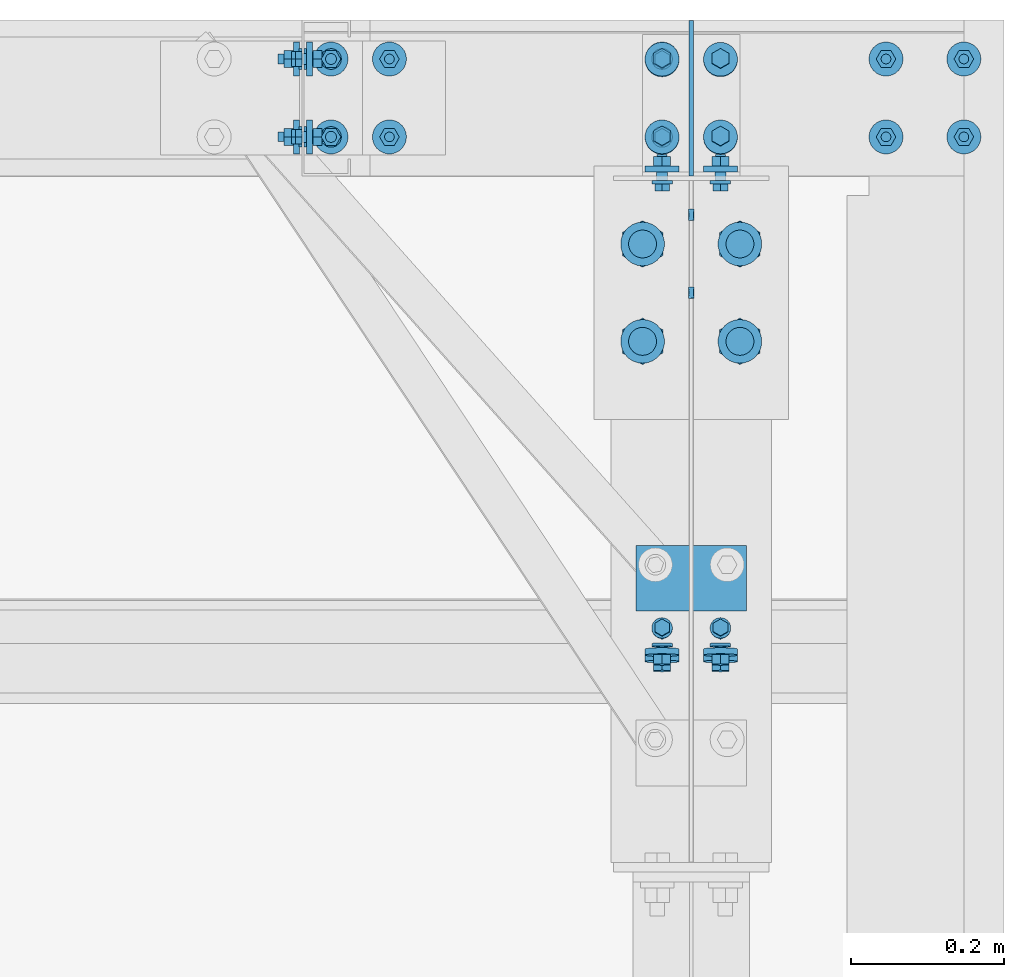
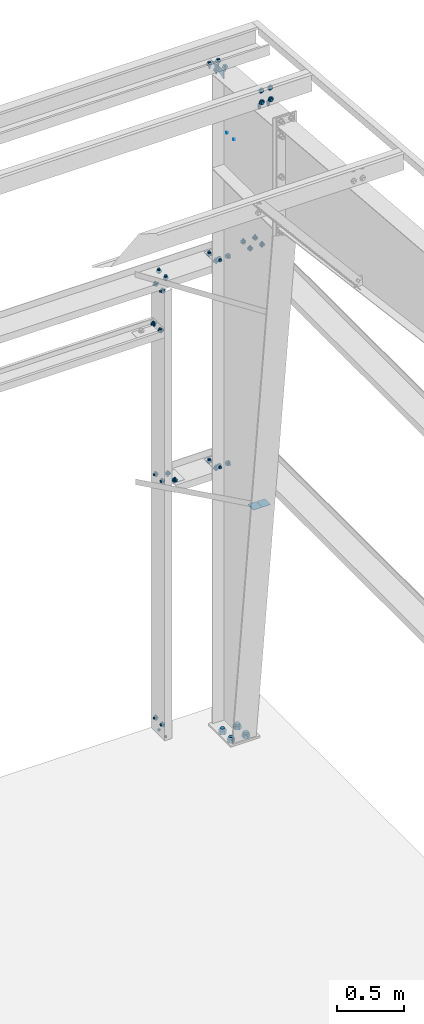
# One storey, part 118 of 185: 19 mechanical fasteners, 3 discrete accessories, 10 elements without a shape of their own.
"""IFC2X3 building model written with IfcOpenShell, lengths in millimetres."""

from ifc_helpers import new_model, si_unit, frame, origin_with_axes, origin_2d_with_axis, place, context, subcontext, project, spatial, polyline, rectangle, circle, outline, extrude, source, transform, mapped, material, type_object, element, aggregate, save


model = new_model("IFC2X3")

# Units and contexts
model_context = context("Model", 3, precision=1e-05, world=origin_with_axes())
body_context = subcontext(model_context, "Body", "Model", "MODEL_VIEW")
ifc_project = project(units=[si_unit("LENGTHUNIT", "METRE", prefix="MILLI"), si_unit("AREAUNIT", "SQUARE_METRE"), si_unit("VOLUMEUNIT", "CUBIC_METRE"), si_unit("MASSUNIT", "GRAM", prefix="KILO"), si_unit("TIMEUNIT", "SECOND"), si_unit("PLANEANGLEUNIT", "RADIAN"), si_unit("SOLIDANGLEUNIT", "STERADIAN"), si_unit("THERMODYNAMICTEMPERATUREUNIT", "DEGREE_CELSIUS"), si_unit("LUMINOUSINTENSITYUNIT", "LUMEN")], contexts=[model_context])

# Site, building, storey
site_placement = place(None, origin_with_axes())
site = spatial("IfcSite", under=ifc_project, at=site_placement, Name="Undefined", CompositionType="ELEMENT")
building_placement = place(site_placement, origin_with_axes())
building = spatial("IfcBuilding", under=site, at=building_placement, Name="Undefined", CompositionType="ELEMENT")
storey_placement = place(building_placement, origin_with_axes())
storey = spatial("IfcBuildingStorey", under=building, at=storey_placement, Name="Undefined", CompositionType="ELEMENT", Elevation=0.0)

# Assembly, mechanical fastener
assembly_1_placement = place(storey_placement, origin_with_axes())
assembly_1 = element("IfcElementAssembly", 1, at=assembly_1_placement, inside=storey, Name="Steel Assembly", AssemblyPlace="NOTDEFINED", PredefinedType="RIGID_FRAME")
ifc_material_1 = material(Name="Undefined")
discrete_accessory_type_1 = type_object("IfcDiscreteAccessoryType", Name="Bolt assembly")
shared_shape_1 = source(origin_with_axes(), body_context, "Body", "SweptSolid", [
    extrude(circle(Radius=7.14374971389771, at=origin_2d_with_axis()), frame((0.0, -1.4900000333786, 0.0), z_axis=(0.0, 1.0, 0.0), x_axis=(1.0, 0.0, 0.0)), (0.0, 0.0, 1.0), 3.2),
    extrude(circle(Radius=7.14374971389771, at=origin_2d_with_axis()), frame((0.0, -1.4900000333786, 0.0), z_axis=(0.0, 1.0, 0.0), x_axis=(1.0, 0.0, 0.0)), (0.0, 0.0, 1.0), 3.2),
    extrude(outline(polyline([(10.9985221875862, 0.0), (5.4992610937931, 9.52499961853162), (-5.4992610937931, 9.52499961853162), (-10.9985221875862, 0.0), (-5.4992610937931, -9.52499961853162), (5.4992610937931, -9.52499961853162), (10.9985221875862, 0.0)])), frame((0.0, -15.0837496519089, 0.0), z_axis=(0.0, 1.0, 0.0), x_axis=(1.0, 0.0, 0.0)), (0.0, 0.0, 1.0), 9.5),
    extrude(circle(Radius=6.34999990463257, at=origin_2d_with_axis()), frame((0.0, -5.5587500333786, 0.0), z_axis=(0.0, 1.0, 0.0), x_axis=(1.0, 0.0, 0.0)), (0.0, 0.0, 1.0), 38.1),
    extrude(circle(Radius=13.4937496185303, at=origin_2d_with_axis()), frame((0.0, -5.5587500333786, 0.0), z_axis=(0.0, 1.0, 0.0), x_axis=(1.0, 0.0, 0.0)), (0.0, 0.0, 1.0), 4.0),
    extrude(circle(Radius=22.2250003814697, at=origin_2d_with_axis()), frame((0.0, 1.5900000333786, 0.0), z_axis=(0.0, 1.0, 0.0), x_axis=(1.0, 0.0, 0.0)), (0.0, 0.0, 1.0), 7.9),
    extrude(outline(polyline([(12.8316099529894, 0.0), (6.4158049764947, 11.1125001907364), (-6.4158049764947, 11.1125001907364), (-12.8316099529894, 0.0), (-6.4158049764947, -11.1125001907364), (6.4158049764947, -11.1125001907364), (12.8316099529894, 0.0)])), frame((0.0, 9.5275000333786, 0.0), z_axis=(0.0, 1.0, 0.0), x_axis=(1.0, 0.0, 0.0)), (0.0, 0.0, 1.0), 12.3),
])
mechanical_fastener_1_placement = place(assembly_1_placement, frame((44805.6, 31902.4, 4165.6), z_axis=(0.0, -1.0, 0.0), x_axis=(1.0, 0.0, 0.0)))
mechanical_fastener_1 = element("IfcMechanicalFastener", 2, at=mechanical_fastener_1_placement, type_object=discrete_accessory_type_1, material=ifc_material_1, Name="Bolt assembly", NominalDiameter=12.6999998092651, NominalLength=38.0999984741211, context=body_context, shape_type="MappedRepresentation", body=[
    mapped(shared_shape_1, transform((0.0, 0.0, -50.7999992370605))),
    mapped(shared_shape_1, transform((101.599998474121, 0.0, -50.7999992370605))),
    mapped(shared_shape_1, transform((0.0, 0.0, 50.7999992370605))),
    mapped(shared_shape_1, transform((101.599998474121, 0.0, 50.7999992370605))),
])
aggregate(assembly_1, [mechanical_fastener_1])

# Assembly, mechanical fasteners
assembly_2_placement = place(storey_placement, origin_with_axes())
assembly_2 = element("IfcElementAssembly", 3, at=assembly_2_placement, inside=storey, Name="Steel Assembly", AssemblyPlace="NOTDEFINED", PredefinedType="RIGID_FRAME")
shared_shape_2 = source(origin_with_axes(), body_context, "Body", "SweptSolid", [
    extrude(circle(Radius=7.14374971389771, at=origin_2d_with_axis()), frame((0.0, -1.59000001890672, 0.0), z_axis=(0.0, 1.0, 0.0), x_axis=(1.0, 0.0, 0.0)), (0.0, 0.0, 1.0), 3.3),
    extrude(circle(Radius=13.4937496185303, at=origin_2d_with_axis()), frame((0.0, -5.5587500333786, 0.0), z_axis=(0.0, 1.0, 0.0), x_axis=(1.0, 0.0, 0.0)), (0.0, 0.0, 1.0), 4.0),
    extrude(circle(Radius=22.2250003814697, at=origin_2d_with_axis()), frame((0.0, 1.5900000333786, 0.0), z_axis=(0.0, 1.0, 0.0), x_axis=(1.0, 0.0, 0.0)), (0.0, 0.0, 1.0), 7.9),
    extrude(outline(polyline([(12.8316099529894, 0.0), (6.4158049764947, 11.1125001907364), (-6.4158049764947, 11.1125001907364), (-12.8316099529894, 0.0), (-6.4158049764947, -11.1125001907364), (6.4158049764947, -11.1125001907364), (12.8316099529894, 0.0)])), frame((0.0, 9.5275000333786, 0.0), z_axis=(0.0, 1.0, 0.0), x_axis=(1.0, 0.0, 0.0)), (0.0, 0.0, 1.0), 12.3),
])
mechanical_fastener_2_placement = place(assembly_2_placement, frame((44513.5, 31185.1382206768, 6113.2623980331), z_axis=(-1.0, 0.0, 0.0), x_axis=(0.0, -0.0830454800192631, -0.996545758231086)))
mechanical_fastener_2 = element("IfcMechanicalFastener", 4, at=mechanical_fastener_2_placement, type_object=discrete_accessory_type_1, material=ifc_material_1, Name="Bolt assembly", NominalDiameter=12.6999998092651, NominalLength=38.0999984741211, context=body_context, shape_type="MappedRepresentation", body=[
    mapped(shared_shape_2, transform((0.0, 0.0, 0.0))),
    mapped(shared_shape_2, transform((101.599998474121, 0.0, 0.0))),
])
mechanical_fastener_3_placement = place(assembly_2_placement, frame((44589.7, 31185.1382206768, 6113.2623980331), z_axis=(-1.0, 0.0, 0.0), x_axis=(0.0, -0.0830454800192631, -0.996545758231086)))
mechanical_fastener_3 = element("IfcMechanicalFastener", 5, at=mechanical_fastener_3_placement, type_object=discrete_accessory_type_1, material=ifc_material_1, Name="Bolt assembly", NominalDiameter=12.6999998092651, NominalLength=38.0999984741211, context=body_context, shape_type="MappedRepresentation", body=[
    mapped(shared_shape_2, transform((0.0, 0.0, 0.0))),
    mapped(shared_shape_2, transform((101.599998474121, 0.0, 0.0))),
])

# Assembly, mechanical fastener
assembly_3_placement = place(storey_placement, origin_with_axes())
assembly_3 = element("IfcElementAssembly", 6, at=assembly_3_placement, inside=storey, Name="Steel Assembly", AssemblyPlace="NOTDEFINED", PredefinedType="RIGID_FRAME")
shared_shape_3 = source(origin_with_axes(), body_context, "Body", "SweptSolid", [
    extrude(circle(Radius=7.14374971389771, at=origin_2d_with_axis()), frame((0.0, 0.0, 0.0), z_axis=(0.0, 1.0, 0.0), x_axis=(1.0, 0.0, 0.0)), (0.0, 0.0, 1.0), 6.5),
])
mechanical_fastener_4_placement = place(assembly_3_placement, frame((44554.775, 31699.2, 5372.09499893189), z_axis=(0.0, -1.0, 0.0), x_axis=(0.0, 0.0, 1.0)))
mechanical_fastener_4 = element("IfcMechanicalFastener", 7, at=mechanical_fastener_4_placement, type_object=discrete_accessory_type_1, material=ifc_material_1, Name="Bolt assembly", NominalDiameter=12.6999998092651, NominalLength=38.0999984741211, context=body_context, shape_type="MappedRepresentation", body=[
    mapped(shared_shape_3, transform((0.0, 0.0, -50.7999992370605))),
    mapped(shared_shape_3, transform((0.0, 0.0, 50.7999992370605))),
])

assembly_4_placement = place(storey_placement, origin_with_axes())
assembly_4 = element("IfcElementAssembly", 8, at=assembly_4_placement, inside=storey, Name="Steel Assembly", AssemblyPlace="NOTDEFINED", PredefinedType="RIGID_FRAME")
shared_shape_4 = source(origin_with_axes(), body_context, "Body", "SweptSolid", [
    extrude(circle(Radius=7.14374971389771, at=origin_2d_with_axis()), frame((0.0, -3.08000006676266, 0.0), z_axis=(0.0, 1.0, 0.0), x_axis=(1.0, 0.0, 0.0)), (0.0, 0.0, 1.0), 3.2),
    extrude(circle(Radius=7.14374971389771, at=origin_2d_with_axis()), frame((0.0, -0.1, 0.0), z_axis=(0.0, 1.0, 0.0), x_axis=(1.0, 0.0, 0.0)), (0.0, 0.0, 1.0), 3.3),
    extrude(outline(polyline([(10.9985221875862, 0.0), (5.4992610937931, 9.52499961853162), (-5.4992610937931, 9.52499961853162), (-10.9985221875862, 0.0), (-5.4992610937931, -9.52499961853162), (5.4992610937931, -9.52499961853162), (10.9985221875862, 0.0)])), frame((0.0, -16.6737496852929, 0.0), z_axis=(0.0, 1.0, 0.0), x_axis=(1.0, 0.0, 0.0)), (0.0, 0.0, 1.0), 9.5),
    extrude(circle(Radius=6.34999990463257, at=origin_2d_with_axis()), frame((0.0, -7.14875006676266, 0.0), z_axis=(0.0, 1.0, 0.0), x_axis=(1.0, 0.0, 0.0)), (0.0, 0.0, 1.0), 38.1),
    extrude(circle(Radius=13.4937496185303, at=origin_2d_with_axis()), frame((0.0, -7.14875006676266, 0.0), z_axis=(0.0, 1.0, 0.0), x_axis=(1.0, 0.0, 0.0)), (0.0, 0.0, 1.0), 4.0),
    extrude(circle(Radius=22.2250003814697, at=origin_2d_with_axis()), frame((0.0, 3.17500610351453, 0.0), z_axis=(0.0, 1.0, 0.0), x_axis=(1.0, 0.0, 0.0)), (0.0, 0.0, 1.0), 7.9),
    extrude(outline(polyline([(12.8316099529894, 0.0), (6.4158049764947, 11.1125001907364), (-6.4158049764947, 11.1125001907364), (-12.8316099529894, 0.0), (-6.4158049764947, -11.1125001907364), (6.4158049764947, -11.1125001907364), (12.8316099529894, 0.0)])), frame((0.0, 11.1125061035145, 0.0), z_axis=(0.0, 1.0, 0.0), x_axis=(1.0, 0.0, 0.0)), (0.0, 0.0, 1.0), 12.3),
])
mechanical_fastener_5_placement = place(assembly_4_placement, frame((44157.9, 31902.4, 2287.59000003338), z_axis=(0.0, -1.0, 0.0), x_axis=(1.0, 0.0, 0.0)))
mechanical_fastener_5 = element("IfcMechanicalFastener", 9, at=mechanical_fastener_5_placement, type_object=discrete_accessory_type_1, material=ifc_material_1, Name="Bolt assembly", NominalDiameter=12.6999998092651, NominalLength=38.0999984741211, context=body_context, shape_type="MappedRepresentation", body=[
    mapped(shared_shape_4, transform((0.0, 0.0, -50.7999992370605))),
    mapped(shared_shape_4, transform((0.0, 0.0, 50.7999992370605))),
])

assembly_5_placement = place(storey_placement, origin_with_axes())
assembly_5 = element("IfcElementAssembly", 10, at=assembly_5_placement, inside=storey, Name="Steel Assembly", AssemblyPlace="NOTDEFINED", PredefinedType="RIGID_FRAME")
mechanical_fastener_6_placement = place(assembly_5_placement, frame((44043.6, 31902.4, 3695.7), z_axis=(0.0, -1.0, 0.0), x_axis=(0.0, 0.0, 1.0)))
mechanical_fastener_6 = element("IfcMechanicalFastener", 11, at=mechanical_fastener_6_placement, type_object=discrete_accessory_type_1, material=ifc_material_1, Name="Bolt assembly", NominalDiameter=12.6999998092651, NominalLength=38.0999984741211, context=body_context, shape_type="MappedRepresentation", body=[
    mapped(shared_shape_4, transform((0.0, 0.0, -50.7999992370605))),
    mapped(shared_shape_4, transform((0.0, 0.0, 50.7999992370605))),
])
aggregate(assembly_5, [mechanical_fastener_6])

# Assembly, mechanical fasteners
assembly_6_placement = place(storey_placement, origin_with_axes())
assembly_6 = element("IfcElementAssembly", 12, at=assembly_6_placement, inside=storey, Name="Steel Assembly", AssemblyPlace="NOTDEFINED", PredefinedType="RIGID_FRAME")
mechanical_fastener_7_placement = place(assembly_6_placement, frame((44081.7, 31902.4, 4164.00999996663), z_axis=(0.0, 1.0, 0.0), x_axis=(1.0, 0.0, 0.0)))
mechanical_fastener_7 = element("IfcMechanicalFastener", 13, at=mechanical_fastener_7_placement, type_object=discrete_accessory_type_1, material=ifc_material_1, Name="Bolt assembly", NominalDiameter=12.6999998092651, NominalLength=38.0999984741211, context=body_context, shape_type="MappedRepresentation", body=[
    mapped(shared_shape_4, transform((0.0, 0.0, -50.7999992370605))),
    mapped(shared_shape_4, transform((0.0, 0.0, 50.7999992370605))),
])
mechanical_fastener_8_placement = place(assembly_6_placement, frame((44046.7800003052, 31902.4, 4051.3), z_axis=(0.0, -1.0, 0.0), x_axis=(0.0, 0.0, -1.0)))
mechanical_fastener_8 = element("IfcMechanicalFastener", 14, at=mechanical_fastener_8_placement, type_object=discrete_accessory_type_1, material=ifc_material_1, Name="Bolt assembly", NominalDiameter=12.6999998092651, NominalLength=38.0999984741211, context=body_context, shape_type="MappedRepresentation", body=[
    mapped(shared_shape_4, transform((0.0, 0.0, -50.7999992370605))),
    mapped(shared_shape_4, transform((0.0, 0.0, 50.7999992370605))),
])
aggregate(assembly_6, [mechanical_fastener_7, mechanical_fastener_8])

# Assembly, mechanical fastener
assembly_7_placement = place(storey_placement, origin_with_axes())
assembly_7 = element("IfcElementAssembly", 15, at=assembly_7_placement, inside=storey, Name="Steel Assembly", AssemblyPlace="NOTDEFINED", PredefinedType="RIGID_FRAME")
shared_shape_5 = source(origin_with_axes(), body_context, "Body", "SweptSolid", [
    extrude(circle(Radius=7.14374971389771, at=origin_2d_with_axis()), frame((0.0, -3.17500610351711, 0.0), z_axis=(0.0, 1.0, 0.0), x_axis=(1.0, 0.0, 0.0)), (0.0, 0.0, 1.0), 3.3),
    extrude(outline(polyline([(12.8316099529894, 0.0), (6.4158049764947, 11.1125001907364), (-6.4158049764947, 11.1125001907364), (-12.8316099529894, 0.0), (-6.4158049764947, -11.1125001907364), (6.4158049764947, -11.1125001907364), (12.8316099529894, 0.0)])), frame((0.0, 0.0, 0.0), z_axis=(0.0, 1.0, 0.0), x_axis=(1.0, 0.0, 0.0)), (0.0, 0.0, 1.0), 12.3),
])
mechanical_fastener_9_placement = place(assembly_7_placement, frame((44081.7, 31902.4, 0.0), z_axis=(0.0, 1.0, 0.0), x_axis=(1.0, 0.0, 0.0)))
mechanical_fastener_9 = element("IfcMechanicalFastener", 16, at=mechanical_fastener_9_placement, type_object=discrete_accessory_type_1, material=ifc_material_1, Name="Bolt assembly", NominalDiameter=12.6999998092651, NominalLength=38.0999984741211, context=body_context, shape_type="MappedRepresentation", body=[
    mapped(shared_shape_5, transform((0.0, 0.0, -50.7999992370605))),
    mapped(shared_shape_5, transform((0.0, 0.0, 50.7999992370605))),
])
aggregate(assembly_7, [mechanical_fastener_9])

assembly_8_placement = place(storey_placement, origin_with_axes())
assembly_8 = element("IfcElementAssembly", 17, at=assembly_8_placement, inside=storey, Name="Steel Assembly", AssemblyPlace="NOTDEFINED", PredefinedType="RIGID_FRAME")
shared_shape_6 = source(origin_with_axes(), body_context, "Body", "SweptSolid", [
    extrude(circle(Radius=7.14374971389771, at=origin_2d_with_axis()), frame((0.0, -0.1, 0.0), z_axis=(0.0, 1.0, 0.0), x_axis=(1.0, 0.0, 0.0)), (0.0, 0.0, 1.0), 3.3),
    extrude(circle(Radius=7.14374971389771, at=origin_2d_with_axis()), frame((0.0, -3.07500000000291, 0.0), z_axis=(0.0, 1.0, 0.0), x_axis=(1.0, 0.0, 0.0)), (0.0, 0.0, 1.0), 3.2),
    extrude(outline(polyline([(10.9985221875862, 0.0), (5.4992610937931, 9.52499961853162), (-5.4992610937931, 9.52499961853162), (-10.9985221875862, 0.0), (-5.4992610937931, -9.52499961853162), (5.4992610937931, -9.52499961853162), (10.9985221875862, 0.0)])), frame((0.0, -11.1125000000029, 0.0), z_axis=(0.0, 1.0, 0.0), x_axis=(1.0, 0.0, 0.0)), (0.0, 0.0, 1.0), 7.9),
    extrude(circle(Radius=6.34999990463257, at=origin_2d_with_axis()), frame((0.0, -3.17500610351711, 0.0), z_axis=(0.0, 1.0, 0.0), x_axis=(1.0, 0.0, 0.0)), (0.0, 0.0, 1.0), 25.4),
    extrude(circle(Radius=22.2250003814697, at=origin_2d_with_axis()), frame((0.0, 3.17500610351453, 0.0), z_axis=(0.0, 1.0, 0.0), x_axis=(1.0, 0.0, 0.0)), (0.0, 0.0, 1.0), 7.9),
    extrude(outline(polyline([(12.8316099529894, 0.0), (6.4158049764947, 11.1125001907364), (-6.4158049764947, 11.1125001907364), (-12.8316099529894, 0.0), (-6.4158049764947, -11.1125001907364), (6.4158049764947, -11.1125001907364), (12.8316099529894, 0.0)])), frame((0.0, 11.1125061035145, 0.0), z_axis=(0.0, 1.0, 0.0), x_axis=(1.0, 0.0, 0.0)), (0.0, 0.0, 1.0), 12.3),
])
mechanical_fastener_10_placement = place(assembly_8_placement, frame((44046.775, 31902.4, 114.3), z_axis=(0.0, 1.0, 0.0), x_axis=(0.0, 0.0, 1.0)))
mechanical_fastener_10 = element("IfcMechanicalFastener", 18, at=mechanical_fastener_10_placement, type_object=discrete_accessory_type_1, material=ifc_material_1, Name="Bolt assembly", NominalDiameter=12.6999998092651, NominalLength=25.3999996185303, context=body_context, shape_type="MappedRepresentation", body=[
    mapped(shared_shape_6, transform((0.0, 0.0, -50.7999992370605))),
    mapped(shared_shape_6, transform((0.0, 0.0, 50.7999992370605))),
])
aggregate(assembly_8, [mechanical_fastener_10])

# Mechanical fastener
shared_shape_7 = source(origin_with_axes(), body_context, "Body", "SweptSolid", [
    extrude(circle(Radius=7.14374971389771, at=origin_2d_with_axis()), frame((0.0, -3.08000006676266, 0.0), z_axis=(0.0, 1.0, 0.0), x_axis=(1.0, 0.0, 0.0)), (0.0, 0.0, 1.0), 3.2),
    extrude(circle(Radius=7.14374971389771, at=origin_2d_with_axis()), frame((0.0, -0.1, 0.0), z_axis=(0.0, 1.0, 0.0), x_axis=(1.0, 0.0, 0.0)), (0.0, 0.0, 1.0), 3.3),
    extrude(outline(polyline([(10.9985221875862, 0.0), (5.4992610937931, 9.52499961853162), (-5.4992610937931, 9.52499961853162), (-10.9985221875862, 0.0), (-5.4992610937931, -9.52499961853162), (5.4992610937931, -9.52499961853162), (10.9985221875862, 0.0)])), frame((0.0, -11.1175003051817, 0.0), z_axis=(0.0, 1.0, 0.0), x_axis=(1.0, 0.0, 0.0)), (0.0, 0.0, 1.0), 7.9),
    extrude(circle(Radius=6.34999990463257, at=origin_2d_with_axis()), frame((0.0, -3.18000030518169, 0.0), z_axis=(0.0, 1.0, 0.0), x_axis=(1.0, 0.0, 0.0)), (0.0, 0.0, 1.0), 25.4),
    extrude(circle(Radius=22.2250003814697, at=origin_2d_with_axis()), frame((0.0, 3.17500610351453, 0.0), z_axis=(0.0, 1.0, 0.0), x_axis=(1.0, 0.0, 0.0)), (0.0, 0.0, 1.0), 7.9),
    extrude(outline(polyline([(12.8316099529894, 0.0), (6.4158049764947, 11.1125001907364), (-6.4158049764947, 11.1125001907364), (-12.8316099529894, 0.0), (-6.4158049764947, -11.1125001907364), (6.4158049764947, -11.1125001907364), (12.8316099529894, 0.0)])), frame((0.0, 11.1125061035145, 0.0), z_axis=(0.0, 1.0, 0.0), x_axis=(1.0, 0.0, 0.0)), (0.0, 0.0, 1.0), 12.3),
])
mechanical_fastener_11_placement = place(assembly_4_placement, frame((44046.7800003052, 31902.4, 2324.1), z_axis=(0.0, 1.0, 0.0), x_axis=(0.0, 0.0, 1.0)))
mechanical_fastener_11 = element("IfcMechanicalFastener", 19, at=mechanical_fastener_11_placement, type_object=discrete_accessory_type_1, material=ifc_material_1, Name="Bolt assembly", NominalDiameter=12.6999998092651, NominalLength=25.3999996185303, context=body_context, shape_type="MappedRepresentation", body=[
    mapped(shared_shape_7, transform((0.0, 0.0, -50.7999992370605))),
    mapped(shared_shape_7, transform((0.0, 0.0, 50.7999992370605))),
])

aggregate(assembly_4, [mechanical_fastener_11, mechanical_fastener_5])

# Discrete accessory
ifc_material_2 = material(Name="STEEL/55")
discrete_accessory_type_2 = type_object("IfcDiscreteAccessoryType", Name="FLANGE BRACE FLIP")
discrete_accessory_1_placement = place(assembly_3_placement, frame((44553.98125, 31276.0950559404, 2284.29185), z_axis=(0.0, -1.0, 0.0), x_axis=(1.0, 0.0, 0.0)))
discrete_accessory_1 = element("IfcDiscreteAccessory", 20, at=discrete_accessory_1_placement, type_object=discrete_accessory_type_2, material=ifc_material_2, Name="FLANGE BRACE FLIP", ObjectType="PL1/8\"X2 3/4\"", context=body_context, shape_type="SweptSolid", body=[
    extrude(rectangle(XDim=3.4163, YDim=85.725, at=origin_2d_with_axis()), frame((69.8499999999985, 0.0, 0.0), z_axis=(-1.0, 0.0, 0.0), x_axis=(0.0, -1.0, 0.0)), (0.0, 0.0, 1.0), 69.8),
])

discrete_accessory_2_placement = place(assembly_3_placement, frame((44549.21875, 31276.0950559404, 2284.29185), z_axis=(0.0, -1.0, 0.0), x_axis=(-1.0, 0.0, 0.0)))
discrete_accessory_2 = element("IfcDiscreteAccessory", 21, at=discrete_accessory_2_placement, type_object=discrete_accessory_type_2, material=ifc_material_2, Name="FLANGE BRACE FLIP", ObjectType="PL1/8\"X2 3/4\"", context=body_context, shape_type="SweptSolid", body=[
    extrude(rectangle(XDim=3.4163, YDim=85.725, at=origin_2d_with_axis()), frame((69.8499999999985, 0.0, 0.0), z_axis=(-1.0, 0.0, 0.0), x_axis=(0.0, -1.0, 0.0)), (0.0, 0.0, 1.0), 69.8),
])

# Assembly, mechanical fastener
assembly_9_placement = place(storey_placement, origin_with_axes())
assembly_9 = element("IfcElementAssembly", 22, at=assembly_9_placement, inside=storey, Name="Steel Assembly", AssemblyPlace="NOTDEFINED", PredefinedType="RIGID_FRAME")
shared_shape_8 = source(origin_with_axes(), body_context, "Body", "SweptSolid", [
    extrude(circle(Radius=7.14374971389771, at=origin_2d_with_axis()), frame((0.0, -1.69000003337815, 0.0), z_axis=(0.0, 1.0, 0.0), x_axis=(1.0, 0.0, 0.0)), (0.0, 0.0, 1.0), 3.3),
    extrude(circle(Radius=7.14374971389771, at=origin_2d_with_axis()), frame((0.0, -4.66250000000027, 0.0), z_axis=(0.0, 1.0, 0.0), x_axis=(1.0, 0.0, 0.0)), (0.0, 0.0, 1.0), 4.8),
    extrude(outline(polyline([(10.9985221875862, 0.0), (5.4992610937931, 9.52499961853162), (-5.4992610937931, 9.52499961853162), (-10.9985221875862, 0.0), (-5.4992610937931, -9.52499961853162), (5.4992610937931, -9.52499961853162), (10.9985221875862, 0.0)])), frame((0.0, -18.2562496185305, 0.0), z_axis=(0.0, 1.0, 0.0), x_axis=(1.0, 0.0, 0.0)), (0.0, 0.0, 1.0), 9.5),
    extrude(circle(Radius=6.34999990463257, at=origin_2d_with_axis()), frame((0.0, -8.73125000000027, 0.0), z_axis=(0.0, 1.0, 0.0), x_axis=(1.0, 0.0, 0.0)), (0.0, 0.0, 1.0), 38.1),
    extrude(circle(Radius=13.4937496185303, at=origin_2d_with_axis()), frame((0.0, -8.73125000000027, 0.0), z_axis=(0.0, 1.0, 0.0), x_axis=(1.0, 0.0, 0.0)), (0.0, 0.0, 1.0), 4.0),
    extrude(circle(Radius=22.2250003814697, at=origin_2d_with_axis()), frame((0.0, 1.5900000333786, 0.0), z_axis=(0.0, 1.0, 0.0), x_axis=(1.0, 0.0, 0.0)), (0.0, 0.0, 1.0), 7.9),
    extrude(outline(polyline([(12.8316099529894, 0.0), (6.4158049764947, 11.1125001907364), (-6.4158049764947, 11.1125001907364), (-12.8316099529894, 0.0), (-6.4158049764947, -11.1125001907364), (6.4158049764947, -11.1125001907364), (12.8316099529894, 0.0)])), frame((0.0, 9.5275000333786, 0.0), z_axis=(0.0, 1.0, 0.0), x_axis=(1.0, 0.0, 0.0)), (0.0, 0.0, 1.0), 12.3),
])
mechanical_fastener_12_placement = place(assembly_9_placement, frame((44513.5, 31851.6, 2286.0), z_axis=(-1.0, 0.0, 0.0), x_axis=(0.0, 1.0, 0.0)))
mechanical_fastener_12 = element("IfcMechanicalFastener", 23, at=mechanical_fastener_12_placement, type_object=discrete_accessory_type_1, material=ifc_material_1, Name="Bolt assembly", NominalDiameter=12.6999998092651, NominalLength=38.0999984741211, context=body_context, shape_type="MappedRepresentation", body=[
    mapped(shared_shape_8, transform((0.0, 0.0, 0.0))),
    mapped(shared_shape_8, transform((101.599998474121, 0.0, 0.0))),
])

assembly_10_placement = place(storey_placement, origin_with_axes())
assembly_10 = element("IfcElementAssembly", 24, at=assembly_10_placement, inside=storey, Name="Steel Assembly", AssemblyPlace="NOTDEFINED", PredefinedType="RIGID_FRAME")
mechanical_fastener_13_placement = place(assembly_10_placement, frame((44513.5, 31851.6, 4165.6), z_axis=(-1.0, 0.0, 0.0), x_axis=(0.0, 1.0, 0.0)))
mechanical_fastener_13 = element("IfcMechanicalFastener", 25, at=mechanical_fastener_13_placement, type_object=discrete_accessory_type_1, material=ifc_material_1, Name="Bolt assembly", NominalDiameter=12.6999998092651, NominalLength=38.0999984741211, context=body_context, shape_type="MappedRepresentation", body=[
    mapped(shared_shape_8, transform((0.0, 0.0, 0.0))),
    mapped(shared_shape_8, transform((101.599998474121, 0.0, 0.0))),
])

# Mechanical fastener
shared_shape_9 = source(origin_with_axes(), body_context, "Body", "SweptSolid", [
    extrude(circle(Radius=7.14374971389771, at=origin_2d_with_axis()), frame((0.0, -6.24999999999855, 0.0), z_axis=(0.0, 1.0, 0.0), x_axis=(1.0, 0.0, 0.0)), (0.0, 0.0, 1.0), 6.3),
    extrude(circle(Radius=7.14374971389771, at=origin_2d_with_axis()), frame((0.0, -0.1, 0.0), z_axis=(0.0, 1.0, 0.0), x_axis=(1.0, 0.0, 0.0)), (0.0, 0.0, 1.0), 4.9),
    extrude(outline(polyline([(10.9985221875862, 0.0), (5.4992610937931, 9.52499961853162), (-5.4992610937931, 9.52499961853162), (-10.9985221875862, 0.0), (-5.4992610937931, -9.52499961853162), (5.4992610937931, -9.52499961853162), (10.9985221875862, 0.0)])), frame((0.0, -19.8437496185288, 0.0), z_axis=(0.0, 1.0, 0.0), x_axis=(1.0, 0.0, 0.0)), (0.0, 0.0, 1.0), 9.5),
    extrude(circle(Radius=6.34999990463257, at=origin_2d_with_axis()), frame((0.0, -10.3187499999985, 0.0), z_axis=(0.0, 1.0, 0.0), x_axis=(1.0, 0.0, 0.0)), (0.0, 0.0, 1.0), 38.1),
    extrude(circle(Radius=13.4937496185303, at=origin_2d_with_axis()), frame((0.0, -10.3187499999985, 0.0), z_axis=(0.0, 1.0, 0.0), x_axis=(1.0, 0.0, 0.0)), (0.0, 0.0, 1.0), 4.0),
    extrude(circle(Radius=22.2250003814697, at=origin_2d_with_axis()), frame((0.0, 4.76249999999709, 0.0), z_axis=(0.0, 1.0, 0.0), x_axis=(1.0, 0.0, 0.0)), (0.0, 0.0, 1.0), 7.9),
    extrude(outline(polyline([(12.8316099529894, 0.0), (6.4158049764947, 11.1125001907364), (-6.4158049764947, 11.1125001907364), (-12.8316099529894, 0.0), (-6.4158049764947, -11.1125001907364), (6.4158049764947, -11.1125001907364), (12.8316099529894, 0.0)])), frame((0.0, 12.6999999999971, 0.0), z_axis=(0.0, 1.0, 0.0), x_axis=(1.0, 0.0, 0.0)), (0.0, 0.0, 1.0), 12.3),
])
mechanical_fastener_14_placement = place(assembly_9_placement, frame((44551.6, 31800.8, 2324.1), z_axis=(-1.0, 0.0, 0.0), x_axis=(0.0, 0.0, 1.0)))
mechanical_fastener_14 = element("IfcMechanicalFastener", 26, at=mechanical_fastener_14_placement, type_object=discrete_accessory_type_1, material=ifc_material_1, Name="Bolt assembly", NominalDiameter=12.6999998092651, NominalLength=38.0999984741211, context=body_context, shape_type="MappedRepresentation", body=[
    mapped(shared_shape_9, transform((0.0, 0.0, -38.0999984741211))),
    mapped(shared_shape_9, transform((0.0, 0.0, 38.0999984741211))),
])

aggregate(assembly_9, [mechanical_fastener_12, mechanical_fastener_14])

mechanical_fastener_15_placement = place(assembly_10_placement, frame((44551.6, 31800.8, 4203.7), z_axis=(-1.0, 0.0, 0.0), x_axis=(0.0, 0.0, 1.0)))
mechanical_fastener_15 = element("IfcMechanicalFastener", 27, at=mechanical_fastener_15_placement, type_object=discrete_accessory_type_1, material=ifc_material_1, Name="Bolt assembly", NominalDiameter=12.6999998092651, NominalLength=38.0999984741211, context=body_context, shape_type="MappedRepresentation", body=[
    mapped(shared_shape_9, transform((0.0, 0.0, -38.0999984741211))),
    mapped(shared_shape_9, transform((0.0, 0.0, 38.0999984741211))),
])

aggregate(assembly_10, [mechanical_fastener_13, mechanical_fastener_15])

# Discrete accessory
discrete_accessory_type_3 = type_object("IfcDiscreteAccessoryType", Name="Gusset")
discrete_accessory_3_placement = place(assembly_3_placement, frame((44551.6, 31800.8, 5902.65698800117), z_axis=(-1.0, 0.0, 0.0), x_axis=(0.0, 0.996545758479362, -0.0830454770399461)))
discrete_accessory_3 = element("IfcDiscreteAccessory", 28, at=discrete_accessory_3_placement, type_object=discrete_accessory_type_3, material=ifc_material_2, Name="Gusset", ObjectType="1/4\"X2 7/8\"", context=body_context, shape_type="SweptSolid", body=[
    extrude(outline(polyline([(0.0, 0.0), (203.502426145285, -7.36690708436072e-10), (6.32806539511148, 75.9367904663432), (0.0, 0.0)])), frame((0.0, -9.09494701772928e-13, -3.2), z_axis=(0.0, 0.0, 1.0), x_axis=(1.0, 0.0, 0.0)), (0.0, 0.0, 1.0), 6.4),
])

# Mechanical fastener
shared_shape_10 = source(origin_with_axes(), body_context, "Body", "SweptSolid", [
    extrude(circle(Radius=7.14374971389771, at=origin_2d_with_axis()), frame((0.0, -0.1, 0.0), z_axis=(0.0, 1.0, 0.0), x_axis=(1.0, 0.0, 0.0)), (0.0, 0.0, 1.0), 6.5),
    extrude(circle(Radius=7.14374971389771, at=origin_2d_with_axis()), frame((0.0, -3.08000006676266, 0.0), z_axis=(0.0, 1.0, 0.0), x_axis=(1.0, 0.0, 0.0)), (0.0, 0.0, 1.0), 3.2),
    extrude(outline(polyline([(10.9985221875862, 0.0), (5.4992610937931, 9.52499961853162), (-5.4992610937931, 9.52499961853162), (-10.9985221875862, 0.0), (-5.4992610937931, -9.52499961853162), (5.4992610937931, -9.52499961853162), (10.9985221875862, 0.0)])), frame((0.0, -16.6737496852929, 0.0), z_axis=(0.0, 1.0, 0.0), x_axis=(1.0, 0.0, 0.0)), (0.0, 0.0, 1.0), 9.5),
    extrude(circle(Radius=6.34999990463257, at=origin_2d_with_axis()), frame((0.0, -7.14875006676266, 0.0), z_axis=(0.0, 1.0, 0.0), x_axis=(1.0, 0.0, 0.0)), (0.0, 0.0, 1.0), 38.1),
    extrude(circle(Radius=13.4937496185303, at=origin_2d_with_axis()), frame((0.0, -7.14875006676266, 0.0), z_axis=(0.0, 1.0, 0.0), x_axis=(1.0, 0.0, 0.0)), (0.0, 0.0, 1.0), 4.0),
    extrude(outline(polyline([(12.8316099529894, 0.0), (6.4158049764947, 11.1125001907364), (-6.4158049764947, 11.1125001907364), (-12.8316099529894, 0.0), (-6.4158049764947, -11.1125001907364), (6.4158049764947, -11.1125001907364), (12.8316099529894, 0.0)])), frame((0.0, 6.35000000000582, 0.0), z_axis=(0.0, 1.0, 0.0), x_axis=(1.0, 0.0, 0.0)), (0.0, 0.0, 1.0), 12.3),
])
mechanical_fastener_16_placement = place(assembly_2_placement, frame((44551.6, 31210.4504829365, 5958.22479169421), z_axis=(-1.0, 0.0, 0.0), x_axis=(0.0, 0.996545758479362, -0.0830454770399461)))
mechanical_fastener_16 = element("IfcMechanicalFastener", 29, at=mechanical_fastener_16_placement, type_object=discrete_accessory_type_1, material=ifc_material_1, Name="Bolt assembly", NominalDiameter=12.6999998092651, NominalLength=38.0999984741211, context=body_context, shape_type="MappedRepresentation", body=[
    mapped(shared_shape_10, transform((0.0, 0.0, -38.0999984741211))),
    mapped(shared_shape_10, transform((0.0, 0.0, 38.0999984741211))),
])

aggregate(assembly_2, [mechanical_fastener_16, mechanical_fastener_2, mechanical_fastener_3])

shared_shape_11 = source(origin_with_axes(), body_context, "Body", "SweptSolid", [
    extrude(circle(Radius=7.14499998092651, at=origin_2d_with_axis()), frame((0.0, -1.48750355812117, 0.0), z_axis=(0.0, 1.0, 0.0), x_axis=(1.0, 0.0, 0.0)), (0.0, 0.0, 1.0), 1.6),
    extrude(circle(Radius=7.14499998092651, at=origin_2d_with_axis()), frame((0.0, -0.1, 0.0), z_axis=(0.0, 1.0, 0.0), x_axis=(1.0, 0.0, 0.0)), (0.0, 0.0, 1.0), 6.4),
    extrude(outline(polyline([(12.8316099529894, 0.0), (6.4158049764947, 11.1125001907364), (-6.4158049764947, 11.1125001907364), (-12.8316099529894, 0.0), (-6.4158049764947, -11.1125001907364), (6.4158049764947, -11.1125001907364), (12.8316099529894, 0.0)])), frame((0.0, -9.52499961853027, 0.0), z_axis=(0.0, 1.0, 0.0), x_axis=(1.0, 0.0, 0.0)), (0.0, 0.0, 1.0), 7.9),
    extrude(circle(Radius=6.34999990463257, at=origin_2d_with_axis()), frame((0.0, -1.58749999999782, 0.0), z_axis=(0.0, 1.0, 0.0), x_axis=(1.0, 0.0, 0.0)), (0.0, 0.0, 1.0), 50.8),
    extrude(circle(Radius=22.2250003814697, at=origin_2d_with_axis()), frame((0.0, 6.35000000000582, 0.0), z_axis=(0.0, 1.0, 0.0), x_axis=(1.0, 0.0, 0.0)), (0.0, 0.0, 1.0), 7.9),
    extrude(outline(polyline([(12.8316099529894, 0.0), (6.4158049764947, 11.1125001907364), (-6.4158049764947, 11.1125001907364), (-12.8316099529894, 0.0), (-6.4158049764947, -11.1125001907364), (6.4158049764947, -11.1125001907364), (12.8316099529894, 0.0)])), frame((0.0, 14.2875000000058, 0.0), z_axis=(0.0, 1.0, 0.0), x_axis=(1.0, 0.0, 0.0)), (0.0, 0.0, 1.0), 12.3),
])
mechanical_fastener_17_placement = place(assembly_3_placement, frame((44589.7, 31953.3754762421, 5896.31437545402), z_axis=(1.0, 0.0, 0.0), x_axis=(0.0, -0.996545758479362, 0.0830454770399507)))
mechanical_fastener_17 = element("IfcMechanicalFastener", 30, at=mechanical_fastener_17_placement, type_object=discrete_accessory_type_1, material=ifc_material_1, Name="Bolt assembly", NominalDiameter=12.6999998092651, NominalLength=50.7999992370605, context=body_context, shape_type="MappedRepresentation", body=[
    mapped(shared_shape_11, transform((0.0, 0.0, 0.0))),
    mapped(shared_shape_11, transform((101.599998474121, 0.0, 0.0))),
])

shared_shape_12 = source(origin_with_axes(), body_context, "Body", "SweptSolid", [
    extrude(circle(Radius=7.14374971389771, at=origin_2d_with_axis()), frame((0.0, -1.09230397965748, 0.0), z_axis=(0.0, 1.0, 0.0), x_axis=(1.0, 0.0, 0.0)), (0.0, 0.0, 1.0), 1.6),
    extrude(circle(Radius=7.14374971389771, at=origin_2d_with_axis()), frame((0.0, 0.295247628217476, 0.0), z_axis=(0.0, 1.0, 0.0), x_axis=(1.0, 0.0, 0.0)), (0.0, 0.0, 1.0), 6.5),
    extrude(outline(polyline([(12.8316099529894, 0.0), (6.4158049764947, 11.1125001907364), (-6.4158049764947, 11.1125001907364), (-12.8316099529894, 0.0), (-6.4158049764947, -11.1125001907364), (6.4158049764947, -11.1125001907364), (12.8316099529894, 0.0)])), frame((0.0, -9.12980397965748, 0.0), z_axis=(0.0, 1.0, 0.0), x_axis=(1.0, 0.0, 0.0)), (0.0, 0.0, 1.0), 7.9),
    extrude(circle(Radius=6.34999990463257, at=origin_2d_with_axis()), frame((0.0, -1.19230397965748, 0.0), z_axis=(0.0, 1.0, 0.0), x_axis=(1.0, 0.0, 0.0)), (0.0, 0.0, 1.0), 50.8),
    extrude(circle(Radius=22.2250003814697, at=origin_2d_with_axis()), frame((0.0, 6.74543982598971, 0.0), z_axis=(0.0, 1.0, 0.0), x_axis=(1.0, 0.0, 0.0)), (0.0, 0.0, 1.0), 7.9),
    extrude(outline(polyline([(12.8316099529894, 0.0), (6.4158049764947, 11.1125001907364), (-6.4158049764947, 11.1125001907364), (-12.8316099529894, 0.0), (-6.4158049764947, -11.1125001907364), (6.4158049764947, -11.1125001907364), (12.8316099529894, 0.0)])), frame((0.0, 14.6829398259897, 0.0), z_axis=(0.0, 1.0, 0.0), x_axis=(1.0, 0.0, 0.0)), (0.0, 0.0, 1.0), 12.3),
])
mechanical_fastener_18_placement = place(assembly_3_placement, frame((44513.4999999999, 31953.4098310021, 5896.70811819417), z_axis=(1.0, 0.0, 0.0), x_axis=(0.0, -0.995869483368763, 0.0907963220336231)))
mechanical_fastener_18 = element("IfcMechanicalFastener", 31, at=mechanical_fastener_18_placement, type_object=discrete_accessory_type_1, material=ifc_material_1, Name="Bolt assembly", NominalDiameter=12.6999998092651, NominalLength=50.7999992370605, context=body_context, shape_type="MappedRepresentation", body=[
    mapped(shared_shape_12, transform((0.0, 0.0, 0.0))),
    mapped(shared_shape_12, transform((101.599998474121, 0.0, 0.0))),
])

ifc_material_3 = material(Name="7990")
shared_shape_13 = source(origin_with_axes(), body_context, "Body", "SweptSolid", [
    extrude(circle(Radius=18.2562503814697, at=origin_2d_with_axis()), frame((0.0, -15.8750000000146, 0.0), z_axis=(0.0, 1.0, 0.0), x_axis=(1.0, 0.0, 0.0)), (0.0, 0.0, 1.0), 16.0),
    extrude(circle(Radius=28.575, at=origin_2d_with_axis()), frame((0.0, 0.0, 0.0), z_axis=(0.0, 1.0, 0.0), x_axis=(1.0, 0.0, 0.0)), (0.0, 0.0, 1.0), 10.5),
    extrude(outline(polyline([(30.4292459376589, 0.0), (15.2146229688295, 26.3525000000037), (-15.2146229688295, 26.3525000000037), (-30.4292459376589, 0.0), (-15.2146229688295, -26.3525000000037), (15.2146229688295, -26.3525000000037), (30.4292459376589, 0.0)])), frame((0.0, 10.4775, 0.0), z_axis=(0.0, 1.0, 0.0), x_axis=(1.0, 0.0, 0.0)), (0.0, 0.0, 1.0), 21.0),
])
mechanical_fastener_19_placement = place(assembly_3_placement, frame((44551.6, 31711.8999984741, -6.05649983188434e-12), z_axis=(1.0, 0.0, 0.0), x_axis=(0.0, -1.0, 0.0)))
mechanical_fastener_19 = element("IfcMechanicalFastener", 32, at=mechanical_fastener_19_placement, type_object=discrete_accessory_type_1, material=ifc_material_3, Name="Bolt assembly", NominalDiameter=31.75, NominalLength=15.875, context=body_context, shape_type="MappedRepresentation", body=[
    mapped(shared_shape_13, transform((0.0, 0.0, -63.5))),
    mapped(shared_shape_13, transform((127.0, 0.0, -63.5))),
    mapped(shared_shape_13, transform((0.0, 0.0, 63.5))),
    mapped(shared_shape_13, transform((127.0, 0.0, 63.5))),
])

aggregate(assembly_3, [mechanical_fastener_4, discrete_accessory_3, discrete_accessory_1, discrete_accessory_2, mechanical_fastener_18, mechanical_fastener_17, mechanical_fastener_19])

save(model, "model.ifc")
